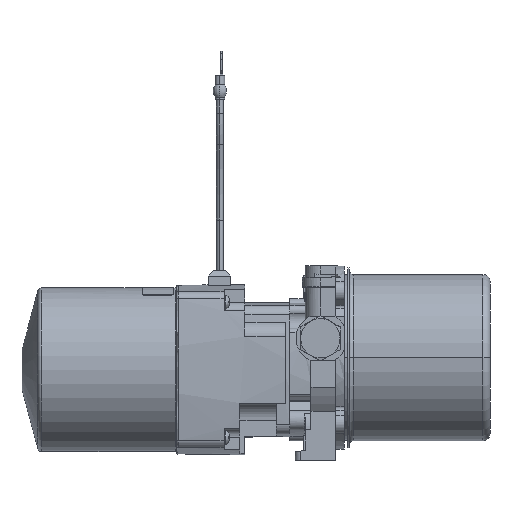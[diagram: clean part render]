
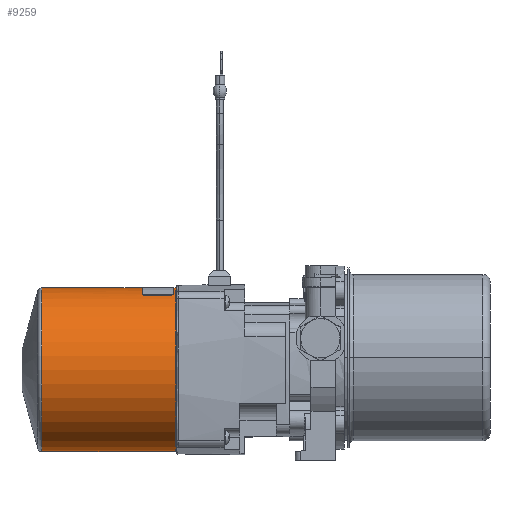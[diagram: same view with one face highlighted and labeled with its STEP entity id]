
A CAD part, left-side view. The second image highlights one B-rep face of the part: STEP entity #9259.
In plain terms, the highlighted cylindrical face has radius 46.2 mm (diameter 92.4 mm), a partial arc.
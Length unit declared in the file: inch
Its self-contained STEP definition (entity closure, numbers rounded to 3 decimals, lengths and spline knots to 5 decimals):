
#3798=DIRECTION('',(0.,1.,0.));
#3799=VECTOR('',#3798,2.23406);
#3800=CARTESIAN_POINT('',(-0.00002,3.96602,
1.81888));
#3801=LINE('',#3800,#3799);
#3825=DIRECTION('',(0.,1.,0.));
#3826=VECTOR('',#3825,0.04343);
#3827=CARTESIAN_POINT('',(-0.00002,3.2226,
1.81888));
#3828=LINE('',#3827,#3826);
#3844=CARTESIAN_POINT('',(-0.00002,3.26602,
-0.00002));
#3845=DIRECTION('',(0.,-1.,0.));
#3846=DIRECTION('',(0.,0.,1.));
#3847=AXIS2_PLACEMENT_3D('',#3844,#3845,#3846);
#3857=CARTESIAN_POINT('',(-0.69002,3.96602,
1.68292));
#3858=CARTESIAN_POINT('',(-0.69876,3.96602,
1.67934));
#3859=CARTESIAN_POINT('',(-0.71457,3.96253,
1.67271));
#3860=CARTESIAN_POINT('',(-0.73498,3.94821,
1.66381));
#3861=CARTESIAN_POINT('',(-0.74732,3.92797,
1.65828));
#3862=CARTESIAN_POINT('',(-0.75002,3.91365,
1.65706));
#3863=CARTESIAN_POINT('',(-0.75002,3.90602,
1.65706));
#3865=DIRECTION('',(0.,-1.,0.));
#3866=VECTOR('',#3865,0.58);
#3867=CARTESIAN_POINT('',(-0.75002,3.90602,
1.65706));
#3868=LINE('',#3867,#3866);
#3869=CARTESIAN_POINT('',(-0.75002,3.32602,
1.65706));
#3870=CARTESIAN_POINT('',(-0.75002,3.31839,
1.65706));
#3871=CARTESIAN_POINT('',(-0.74731,3.30406,
1.65828));
#3872=CARTESIAN_POINT('',(-0.73497,3.28383,
1.66382));
#3873=CARTESIAN_POINT('',(-0.71455,3.26952,
1.67271));
#3874=CARTESIAN_POINT('',(-0.69875,3.26602,
1.67934));
#3875=CARTESIAN_POINT('',(-0.69002,3.26602,
1.68292));
#3877=DIRECTION('',(0.,1.,0.));
#3878=VECTOR('',#3877,2.97749);
#3879=CARTESIAN_POINT('',(-0.00002,3.2226,
-1.81891));
#3880=LINE('',#3879,#3878);
#3881=CARTESIAN_POINT('',(-0.00002,3.96602,
-0.00002));
#3882=DIRECTION('',(0.,-1.,0.));
#3883=DIRECTION('',(0.,0.,1.));
#3884=AXIS2_PLACEMENT_3D('',#3881,#3882,#3883);
#3977=CARTESIAN_POINT('',(-0.00002,3.2226,
-0.00002));
#3978=DIRECTION('',(0.,-1.,0.));
#3979=DIRECTION('',(0.,0.,1.));
#3980=AXIS2_PLACEMENT_3D('',#3977,#3978,#3979);
#4015=CARTESIAN_POINT('',(-0.00002,6.20009,
-1.81891));
#4402=CARTESIAN_POINT('',(-0.00002,6.20009,
-0.00002));
#4403=DIRECTION('',(0.,-1.,0.));
#4404=DIRECTION('',(0.,0.,1.));
#4405=AXIS2_PLACEMENT_3D('',#4402,#4403,#4404);
#7719=CARTESIAN_POINT('',(-0.00002,3.2226,
-1.81891));
#7720=VERTEX_POINT('',#7719);
#7726=VERTEX_POINT('',#4015);
#7729=CARTESIAN_POINT('',(-0.00002,3.2226,
1.81888));
#7730=VERTEX_POINT('',#7729);
#7733=CARTESIAN_POINT('',(-0.00002,3.96602,
1.81888));
#7734=CARTESIAN_POINT('',(-0.69002,3.96602,
1.68292));
#7735=VERTEX_POINT('',#7733);
#7736=VERTEX_POINT('',#7734);
#7737=VERTEX_POINT('',#3863);
#7738=CARTESIAN_POINT('',(-0.75002,3.32602,
1.65706));
#7739=VERTEX_POINT('',#7738);
#7740=VERTEX_POINT('',#3875);
#7741=CARTESIAN_POINT('',(-0.00002,3.26602,
1.81888));
#7742=VERTEX_POINT('',#7741);
#7743=CARTESIAN_POINT('',(-0.00002,6.20009,
1.81888));
#7744=VERTEX_POINT('',#7743);
#9236=CARTESIAN_POINT('',(-0.00002,3.16305,
-0.00002));
#9237=DIRECTION('',(0.,1.,0.));
#9238=DIRECTION('',(-1.,0.,0.));
#9239=AXIS2_PLACEMENT_3D('',#9236,#9237,#9238);
#9240=CYLINDRICAL_SURFACE('',#9239,1.8189);
#9242=ORIENTED_EDGE('',*,*,#9241,.T.);
#9244=ORIENTED_EDGE('',*,*,#9243,.T.);
#9246=ORIENTED_EDGE('',*,*,#9245,.T.);
#9247=ORIENTED_EDGE('',*,*,#9227,.T.);
#9248=ORIENTED_EDGE('',*,*,#9216,.F.);
#9249=ORIENTED_EDGE('',*,*,#9197,.F.);
#9251=ORIENTED_EDGE('',*,*,#9250,.T.);
#9253=ORIENTED_EDGE('',*,*,#9252,.T.);
#9255=ORIENTED_EDGE('',*,*,#9254,.F.);
#9256=ORIENTED_EDGE('',*,*,#9182,.F.);
#9257=EDGE_LOOP('',(#9242,#9244,#9246,#9247,#9248,#9249,#9251,#9253,#9255,
#9256));
#9258=FACE_OUTER_BOUND('',#9257,.F.);
#9259=ADVANCED_FACE('',(#9258),#9240,.T.);
#3848=CIRCLE('',#3847,1.8189);
#3864=B_SPLINE_CURVE_WITH_KNOTS('',3,(#3857,#3858,#3859,#3860,#3861,#3862,
#3863),.UNSPECIFIED.,.F.,.F.,(4,1,1,1,4),(0.,0.25,0.5,0.75,1.),
.UNSPECIFIED.);
#3876=B_SPLINE_CURVE_WITH_KNOTS('',3,(#3869,#3870,#3871,#3872,#3873,#3874,
#3875),.UNSPECIFIED.,.F.,.F.,(4,1,1,1,4),(0.,0.25,0.5,0.75,1.),
.UNSPECIFIED.);
#3885=CIRCLE('',#3884,1.8189);
#3981=CIRCLE('',#3980,1.8189);
#4406=CIRCLE('',#4405,1.8189);
#9182=EDGE_CURVE('',#7735,#7744,#3801,.T.);
#9197=EDGE_CURVE('',#7730,#7742,#3828,.T.);
#9216=EDGE_CURVE('',#7742,#7740,#3848,.T.);
#9227=EDGE_CURVE('',#7739,#7740,#3876,.T.);
#9241=EDGE_CURVE('',#7735,#7736,#3885,.T.);
#9243=EDGE_CURVE('',#7736,#7737,#3864,.T.);
#9245=EDGE_CURVE('',#7737,#7739,#3868,.T.);
#9250=EDGE_CURVE('',#7730,#7720,#3981,.T.);
#9252=EDGE_CURVE('',#7720,#7726,#3880,.T.);
#9254=EDGE_CURVE('',#7744,#7726,#4406,.T.);
